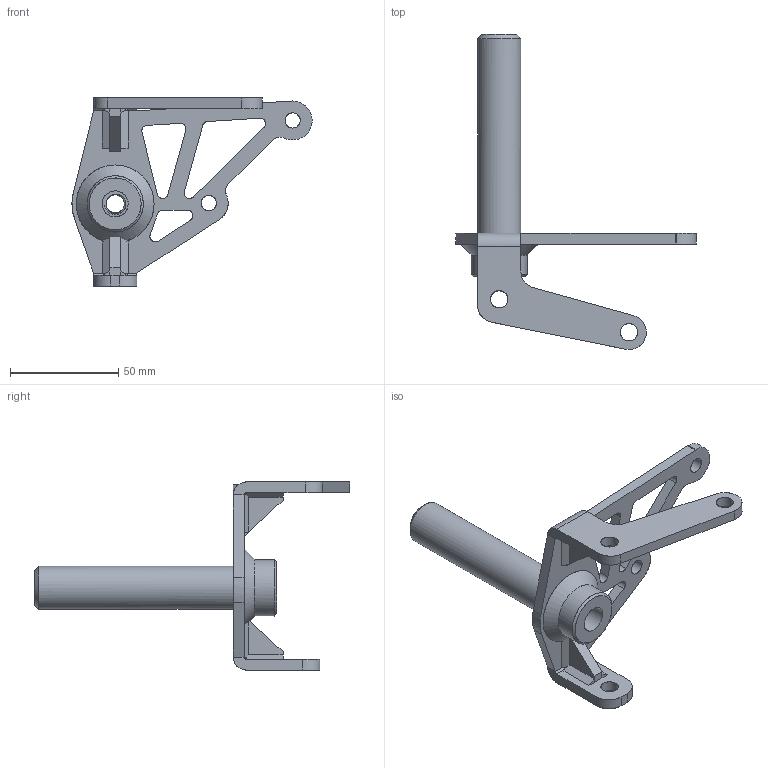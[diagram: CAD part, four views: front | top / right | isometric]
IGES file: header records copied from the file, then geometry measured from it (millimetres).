
Start section: C
Global section: file name: RH-Upright-Assembly.igs; native system: By Siemens PLM Incorporated; preprocessor: XPlus GENERIC/IGES 22.0.50; author: Author; organization: Title; date: 20200703.120402; units: millimetre
Bounding box: 111.03 x 145.77 x 87 mm (x, y, z)
Surface area: 34532.3 mm2 (no closed solid volume)
Topology: 0 solids, 0 shells, 167 faces, 2734 edges, 2734 vertices
Faces by surface type: bspline 167
